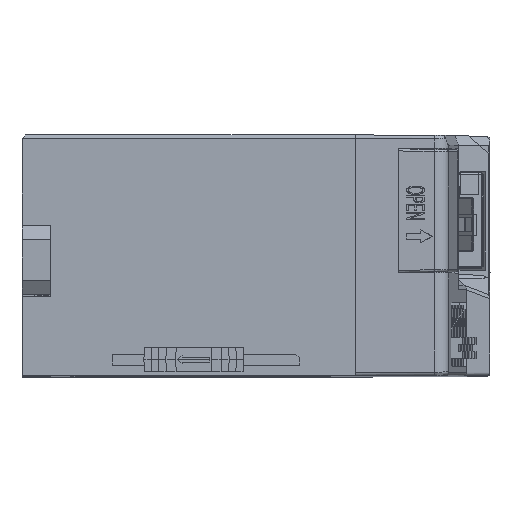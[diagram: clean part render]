
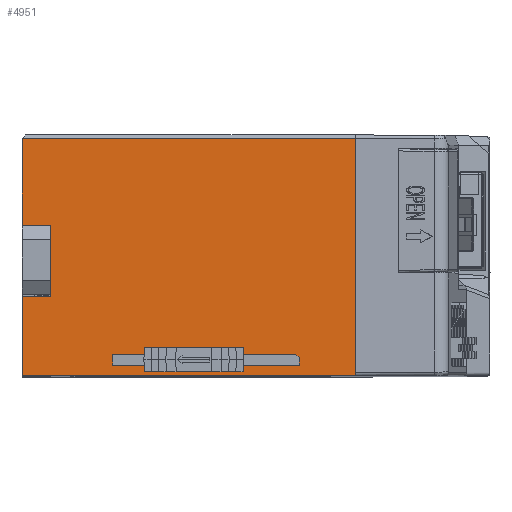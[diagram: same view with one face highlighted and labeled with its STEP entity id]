
A CAD part, top view. The second image highlights one B-rep face of the part: STEP entity #4951.
In plain terms, the highlighted planar face has unit normal (0, 0, 1).
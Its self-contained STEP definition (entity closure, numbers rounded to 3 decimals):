
#958=FACE_BOUND('',#10344,.T.);
#959=FACE_BOUND('',#10345,.T.);
#2767=PLANE('',#48562);
#4951=ADVANCED_FACE('',(#958,#959),#2767,.T.);
#10344=EDGE_LOOP('',(#28855,#28856,#28857,#28858,#28859,#28860,#28861,#28862,
#28863));
#10345=EDGE_LOOP('',(#28864,#28865,#28866,#28867,#28868,#28869,#28870));
#14238=LINE('',#71193,#19526);
#14239=LINE('',#71196,#19527);
#14240=LINE('',#71198,#19528);
#14241=LINE('',#71200,#19529);
#14242=LINE('',#71202,#19530);
#14243=LINE('',#71204,#19531);
#14244=LINE('',#71206,#19532);
#14245=LINE('',#71208,#19533);
#14246=LINE('',#71210,#19534);
#14247=LINE('',#71211,#19535);
#14248=LINE('',#71214,#19536);
#14249=LINE('',#71216,#19537);
#14250=LINE('',#71218,#19538);
#14251=LINE('',#71220,#19539);
#14252=LINE('',#71222,#19540);
#14253=LINE('',#71224,#19541);
#19526=VECTOR('',#56121,1.);
#19527=VECTOR('',#56122,1.);
#19528=VECTOR('',#56123,1.);
#19529=VECTOR('',#56124,1.);
#19530=VECTOR('',#56125,1.);
#19531=VECTOR('',#56126,1.);
#19532=VECTOR('',#56127,1.);
#19533=VECTOR('',#56128,1.);
#19534=VECTOR('',#56129,1.);
#19535=VECTOR('',#56130,1.);
#19536=VECTOR('',#56131,1.);
#19537=VECTOR('',#56132,1.);
#19538=VECTOR('',#56133,1.);
#19539=VECTOR('',#56134,1.);
#19540=VECTOR('',#56135,1.);
#19541=VECTOR('',#56136,1.);
#28855=ORIENTED_EDGE('',*,*,#43315,.T.);
#28856=ORIENTED_EDGE('',*,*,#43316,.T.);
#28857=ORIENTED_EDGE('',*,*,#43317,.F.);
#28858=ORIENTED_EDGE('',*,*,#43318,.T.);
#28859=ORIENTED_EDGE('',*,*,#43319,.T.);
#28860=ORIENTED_EDGE('',*,*,#43320,.F.);
#28861=ORIENTED_EDGE('',*,*,#43321,.T.);
#28862=ORIENTED_EDGE('',*,*,#43322,.T.);
#28863=ORIENTED_EDGE('',*,*,#43323,.F.);
#28864=ORIENTED_EDGE('',*,*,#43324,.T.);
#28865=ORIENTED_EDGE('',*,*,#43325,.F.);
#28866=ORIENTED_EDGE('',*,*,#43326,.F.);
#28867=ORIENTED_EDGE('',*,*,#43327,.T.);
#28868=ORIENTED_EDGE('',*,*,#43328,.T.);
#28869=ORIENTED_EDGE('',*,*,#43329,.T.);
#28870=ORIENTED_EDGE('',*,*,#43330,.T.);
#37813=VERTEX_POINT('',#71194);
#37814=VERTEX_POINT('',#71195);
#37815=VERTEX_POINT('',#71197);
#37816=VERTEX_POINT('',#71199);
#37817=VERTEX_POINT('',#71201);
#37818=VERTEX_POINT('',#71203);
#37819=VERTEX_POINT('',#71205);
#37820=VERTEX_POINT('',#71207);
#37821=VERTEX_POINT('',#71209);
#37822=VERTEX_POINT('',#71212);
#37823=VERTEX_POINT('',#71213);
#37824=VERTEX_POINT('',#71215);
#37825=VERTEX_POINT('',#71217);
#37826=VERTEX_POINT('',#71219);
#37827=VERTEX_POINT('',#71221);
#37828=VERTEX_POINT('',#71223);
#43315=EDGE_CURVE('',#37813,#37814,#14238,.T.);
#43316=EDGE_CURVE('',#37814,#37815,#14239,.T.);
#43317=EDGE_CURVE('',#37816,#37815,#14240,.T.);
#43318=EDGE_CURVE('',#37816,#37817,#14241,.T.);
#43319=EDGE_CURVE('',#37817,#37818,#14242,.T.);
#43320=EDGE_CURVE('',#37819,#37818,#14243,.T.);
#43321=EDGE_CURVE('',#37819,#37820,#14244,.T.);
#43322=EDGE_CURVE('',#37820,#37821,#14245,.T.);
#43323=EDGE_CURVE('',#37813,#37821,#14246,.T.);
#43324=EDGE_CURVE('',#37822,#37823,#14247,.T.);
#43325=EDGE_CURVE('',#37824,#37823,#14248,.T.);
#43326=EDGE_CURVE('',#37825,#37824,#14249,.T.);
#43327=EDGE_CURVE('',#37825,#37826,#14250,.T.);
#43328=EDGE_CURVE('',#37826,#37827,#14251,.T.);
#43329=EDGE_CURVE('',#37827,#37828,#14252,.T.);
#43330=EDGE_CURVE('',#37828,#37822,#14253,.T.);
#48562=AXIS2_PLACEMENT_3D('',#71225,#56137,#56138);
#56121=DIRECTION('',(0.,1.,0.));
#56122=DIRECTION('',(-1.,0.,0.));
#56123=DIRECTION('',(0.017,1.,0.));
#56124=DIRECTION('',(0.,-1.,0.));
#56125=DIRECTION('',(1.,0.,0.));
#56126=DIRECTION('',(0.,1.,0.));
#56127=DIRECTION('',(-1.,0.,0.));
#56128=DIRECTION('',(0.,-1.,0.));
#56129=DIRECTION('',(-1.,0.,0.));
#56130=DIRECTION('',(-1.,0.,0.));
#56131=DIRECTION('',(0.017,-1.,0.));
#56132=DIRECTION('',(-0.017,-1.,0.));
#56133=DIRECTION('',(1.,0.,0.));
#56134=DIRECTION('',(0.707,-0.707,0.));
#56135=DIRECTION('',(0.017,-1.,0.));
#56136=DIRECTION('',(-0.017,-1.,0.));
#56137=DIRECTION('',(0.,0.,1.));
#56138=DIRECTION('',(-1.,0.,0.));
#71193=CARTESIAN_POINT('',(-247.544,-88.239,278.694));
#71194=CARTESIAN_POINT('',(-247.544,-88.239,278.694));
#71195=CARTESIAN_POINT('',(-247.544,-54.739,278.694));
#71196=CARTESIAN_POINT('',(-294.544,-54.739,278.694));
#71197=CARTESIAN_POINT('',(-294.526,-54.739,278.694));
#71198=CARTESIAN_POINT('',(-295.161,-91.134,278.694));
#71199=CARTESIAN_POINT('',(-294.544,-55.739,278.694));
#71200=CARTESIAN_POINT('',(-294.544,-55.739,278.694));
#71201=CARTESIAN_POINT('',(-294.544,-66.989,278.694));
#71202=CARTESIAN_POINT('',(-294.544,-66.989,278.694));
#71203=CARTESIAN_POINT('',(-290.544,-66.989,278.694));
#71204=CARTESIAN_POINT('',(-290.544,-91.625,278.694));
#71205=CARTESIAN_POINT('',(-290.544,-76.989,278.694));
#71206=CARTESIAN_POINT('',(-290.544,-76.989,278.694));
#71207=CARTESIAN_POINT('',(-294.544,-76.989,278.694));
#71208=CARTESIAN_POINT('',(-294.544,-76.989,278.694));
#71209=CARTESIAN_POINT('',(-294.544,-88.239,278.694));
#71210=CARTESIAN_POINT('',(-247.544,-88.239,278.694));
#71211=CARTESIAN_POINT('',(-247.544,-86.739,278.694));
#71212=CARTESIAN_POINT('',(-255.458,-86.739,278.694));
#71213=CARTESIAN_POINT('',(-281.73,-86.739,278.694));
#71214=CARTESIAN_POINT('',(-281.744,-85.939,278.694));
#71215=CARTESIAN_POINT('',(-281.744,-85.939,278.694));
#71216=CARTESIAN_POINT('',(-281.744,-85.939,278.694));
#71217=CARTESIAN_POINT('',(-281.73,-85.139,278.694));
#71218=CARTESIAN_POINT('',(-247.544,-85.139,278.694));
#71219=CARTESIAN_POINT('',(-255.924,-85.139,278.694));
#71220=CARTESIAN_POINT('',(-266.434,-74.63,278.694));
#71221=CARTESIAN_POINT('',(-255.449,-85.614,278.694));
#71222=CARTESIAN_POINT('',(-255.968,-55.886,278.694));
#71223=CARTESIAN_POINT('',(-255.444,-85.939,278.694));
#71224=CARTESIAN_POINT('',(-254.914,-55.61,278.694));
#71225=CARTESIAN_POINT('',(-267.044,-91.625,278.694));
